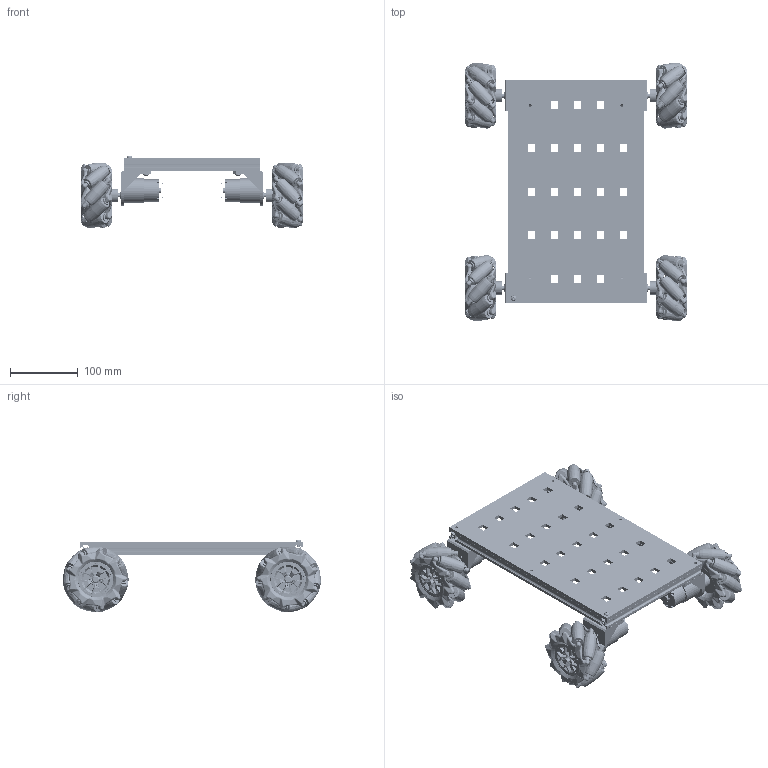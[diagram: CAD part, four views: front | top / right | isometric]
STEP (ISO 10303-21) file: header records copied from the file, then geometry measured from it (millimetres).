
FILE_DESCRIPTION(/* description */ (''),/* implementation_level */ '2;1');
FILE_NAME(/* name */ 'frame_tslot1515_v2.stp',/* time_stamp */ '2025-08-16T14:19:57+02:00',/* author */ ('R5800u'),/* organization */ (''),/* preprocessor_version */ 'ST-DEVELOPER v20',/* originating_system */ 'Autodesk Inventor 2025',/* authorisation */ '');
FILE_SCHEMA (('AUTOMOTIVE_DESIGN { 1 0 10303 214 3 1 1 }'));
Products named in the file (25): frame_tslot1515; tslot-1515-200mm; tslot-1515-300mm; tslot-1515-200mm_MIR; tslot-1515-300mm_MIR; angolare_1515; MM-JGB37; JGB37-520; Mecanum wheel - left; albero_ottonre_12x6; pianoA; MM-JGB37 v4_MIR; JGB37-520_MIR; AS 1427 - M4 x 10; Mecanum wheel - left_MIR; albero_ottonre_12x6_MIR; MM-JGB37 v4_MIR1; JGB37-520_MIR1; Mecanum wheel - left_MIR1; albero_ottonre_12x6_MIR1; MM-JGB37 v4_MIR_MIR; JGB37-520_MIR_MIR; Mecanum wheel - left_MIR_MIR; albero_ottonre_12x6_MIR_MIR; AS 1427 - M4 x 8
Assembly tree (32 placements, depth 2):
  frame_tslot1515
    tslot-1515-200mm
    tslot-1515-300mm
    tslot-1515-200mm_MIR
    tslot-1515-300mm_MIR
    angolare_1515  x4
    MM-JGB37
    JGB37-520
    AS 1427 - M4 x 10  x5
    Mecanum wheel - left
    albero_ottonre_12x6
    pianoA
    MM-JGB37 v4_MIR
    JGB37-520_MIR
    AS 1427 - M4 x 8  x2
    Mecanum wheel - left_MIR
    albero_ottonre_12x6_MIR
    MM-JGB37 v4_MIR1
    JGB37-520_MIR1
    Mecanum wheel - left_MIR1
    albero_ottonre_12x6_MIR1
    MM-JGB37 v4_MIR_MIR
    JGB37-520_MIR_MIR
    Mecanum wheel - left_MIR_MIR
    albero_ottonre_12x6_MIR_MIR
Bounding box: 329.3 x 381.76 x 107.32 mm (x, y, z)
Volume: 1109124.8 mm3; surface area: 677829.6 mm2
Topology: 116 solids, 116 shells, 11542 faces, 29047 edges, 17024 vertices
Faces by surface type: plane 4096, bspline 3028, cylinder 2808, sphere 683, torus 611, cone 316
Full cylindrical faces by diameter (mm): 1.35 x20, 1.6 x12, 2 x12, 2.5 x24, 2.6 x12, 3.2 x8, 3.4 x8, 3.5 x24, 3.571 x7, 3.75 x20, 4 x19, 4.2 x16, 4.3 x24, 4.5 x10, 5.15 x20, 5.25 x72, 5.75 x144, 6 x16, 7.5 x44, 7.9 x8, 9 x72, 10.55 x72, 12 x4, 12.5 x4, 20 x12, 32 x8, 33 x4, 34 x4, 35.4 x4, 37 x4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
Entity records: 603826 total; most frequent: CARTESIAN_POINT 347565, ORIENTED_EDGE 54540, DIRECTION 48816, EDGE_CURVE 27270, AXIS2_PLACEMENT_3D 19919, VERTEX_POINT 16488, EDGE_LOOP 12088, FACE_OUTER_BOUND 11218
